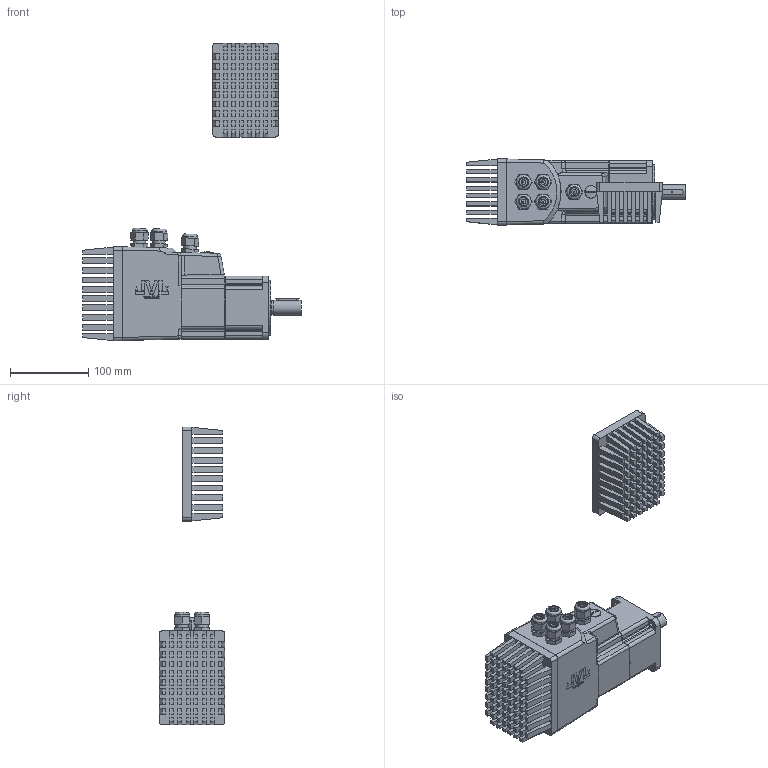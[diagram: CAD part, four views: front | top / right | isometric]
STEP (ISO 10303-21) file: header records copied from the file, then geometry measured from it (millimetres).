
FILE_DESCRIPTION( ( 'Unknown' ), '1' );
FILE_NAME( 'K:/JVL/MACxxx/MAC800/CAD internet tegninger/STEP/STEP/MAC800-D6.stp', 'Unknown', ( 'Unknown' ), ( 'Unknown' ), 'PSStep 11.0', 'Unknown', ' ' );
FILE_SCHEMA( ( 'AUTOMOTIVE_DESIGN { 1 0 10303 214 1 1 1 1 }' ) );
Length unit declared in the file: millimetre
Products named in the file (3): Assem1; Mac800-D6; MM3533
Bounding box: 278.99 x 84 x 379.14 mm (x, y, z)
Volume: 1690473.1 mm3; surface area: 556388.4 mm2
Topology: 4 solids, 12 shells, 2438 faces, 6082 edges, 3986 vertices
Faces by surface type: plane 1914, cylinder 340, extrusion 76, cone 56, bspline 28, torus 20, sphere 4
Full cylindrical faces by diameter (mm): 1 x12, 2 x6, 2.5 x8, 3 x2, 3.242 x8, 3.4 x8, 5.5 x8, 6 x10, 8 x8, 10.5 x20, 12 x2, 16 x12, 19 x14, 22 x2, 32 x6, 42 x2, 63 x2, 70 x2, 77.9 x2, 78.3 x2
Entity records: 46640 total; most frequent: CARTESIAN_POINT 8208, ORIENTED_EDGE 5804, DIRECTION 5601, EDGE_CURVE 2902, VECTOR 2363, LINE 2325, VERTEX_POINT 1955, AXIS2_PLACEMENT_3D 1619
